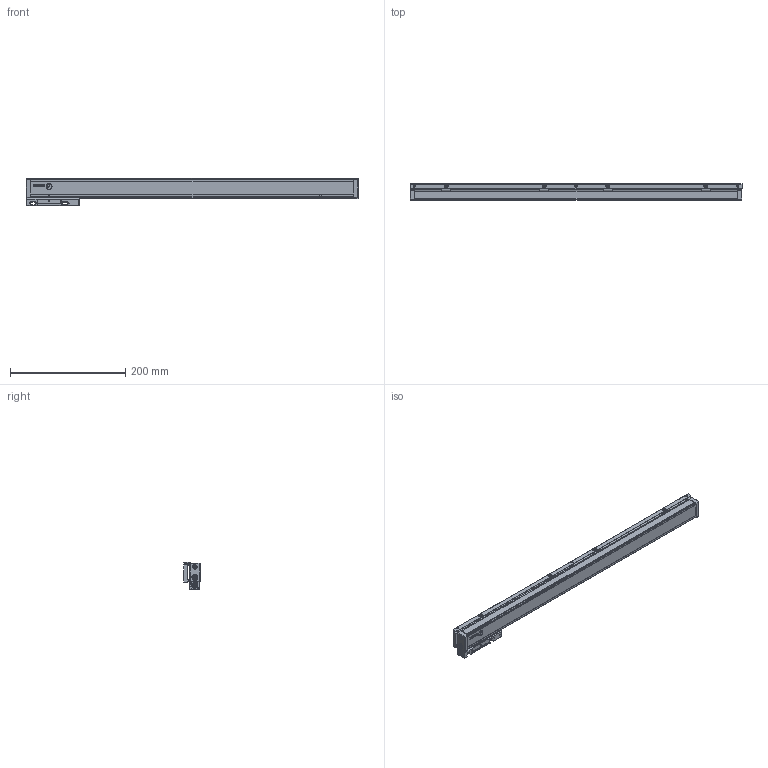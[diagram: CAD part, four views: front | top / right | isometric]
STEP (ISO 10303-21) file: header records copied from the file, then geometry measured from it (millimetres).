
FILE_DESCRIPTION(('Creo Elements/Direct Modeling STEP Export'),'2;1');
FILE_NAME('REGLA_SV3-470-B.stp','2020-10-30T12:26:28',(''),(''),'Creo Elements/Direct Modeling STEP processor for AP214 (Solid Model)','Creo Elements/Direct Modeling 19.0G 27-Nov-2017 (C) Parametric Technology GmbH','');
FILE_SCHEMA(('AUTOMOTIVE_DESIGN { 1 0 10303 214 1 1 1 1 }'));
Length unit declared in the file: millimetre
Products named in the file (4): PERFIL_REGLA_SV3-470; CABEZA_RANURADA_REGLA_S3; PERFIL_SOPORTE_MECANIZADO_REGLA_SV3-470; REGLA_SV3-470
Assembly tree (3 placements, depth 2):
  REGLA_SV3-470
    PERFIL_SOPORTE_MECANIZADO_REGLA_SV3-470
    CABEZA_RANURADA_REGLA_S3
    PERFIL_REGLA_SV3-470
Bounding box: 575 x 28.3 x 48.1 mm (x, y, z)
Volume: 468424.2 mm3; surface area: 154132.7 mm2
Topology: 3 solids, 26 shells, 2346 faces, 7373 edges, 5131 vertices
Faces by surface type: plane 1436, cylinder 661, cone 200, bspline 25, torus 24
Entity records: 94840 total; most frequent: CARTESIAN_POINT 19488, ORIENTED_EDGE 14702, DIRECTION 11891, EDGE_CURVE 7349, VERTEX_POINT 5131, VECTOR 5077, LINE 5077, AXIS2_PLACEMENT_3D 3407
